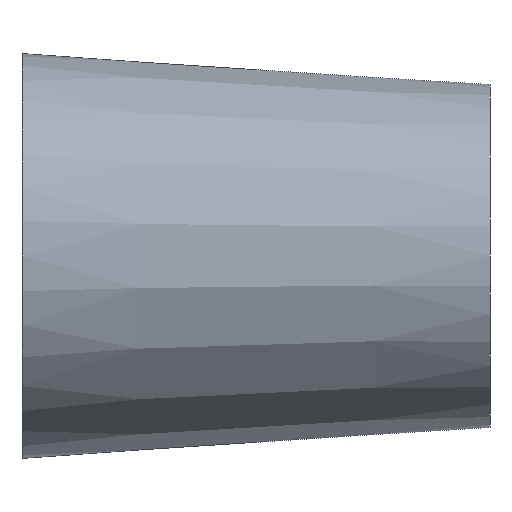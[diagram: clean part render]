
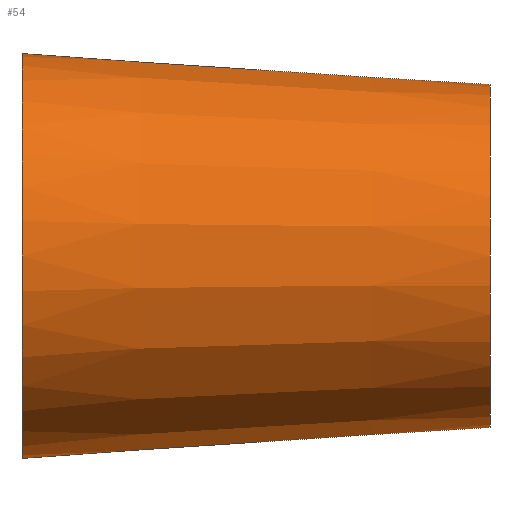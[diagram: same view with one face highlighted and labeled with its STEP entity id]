
A CAD part, left-side view. The second image highlights one B-rep face of the part: STEP entity #54.
In plain terms, the highlighted conical face has half-angle 3.784 degrees and reference radius 42.1 mm.
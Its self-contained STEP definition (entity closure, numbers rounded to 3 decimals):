
#21 = EDGE_CURVE('',#22,#22,#24,.T.);
#22 = VERTEX_POINT('',#23);
#23 = CARTESIAN_POINT('',(42.1,0.,0.));
#24 = SURFACE_CURVE('',#25,(#30,#42),.PCURVE_S1.);
#25 = CIRCLE('',#26,42.1);
#26 = AXIS2_PLACEMENT_3D('',#27,#28,#29);
#27 = CARTESIAN_POINT('',(0.,0.,0.));
#28 = DIRECTION('',(-0.,1.,0.));
#29 = DIRECTION('',(1.,0.,0.));
#30 = PCURVE('',#31,#36);
#31 = PLANE('',#32);
#32 = AXIS2_PLACEMENT_3D('',#33,#34,#35);
#33 = CARTESIAN_POINT('',(0.,0.,0.));
#34 = DIRECTION('',(0.,1.,0.));
#35 = DIRECTION('',(1.,-0.,0.));
#36 = DEFINITIONAL_REPRESENTATION('',(#37),#41);
#37 = CIRCLE('',#38,42.1);
#38 = AXIS2_PLACEMENT_2D('',#39,#40);
#39 = CARTESIAN_POINT('',(0.,0.));
#40 = DIRECTION('',(1.,-0.));
#41 = ( GEOMETRIC_REPRESENTATION_CONTEXT(2) 
PARAMETRIC_REPRESENTATION_CONTEXT() REPRESENTATION_CONTEXT('2D SPACE',''
  ) );
#42 = PCURVE('',#43,#48);
#43 = CONICAL_SURFACE('',#44,42.1,0.066);
#44 = AXIS2_PLACEMENT_3D('',#45,#46,#47);
#45 = CARTESIAN_POINT('',(0.,0.,0.));
#46 = DIRECTION('',(0.,1.,0.));
#47 = DIRECTION('',(1.,0.,0.));
#48 = DEFINITIONAL_REPRESENTATION('',(#49),#53);
#49 = LINE('',#50,#51);
#50 = CARTESIAN_POINT('',(0.,0.));
#51 = VECTOR('',#52,1.);
#52 = DIRECTION('',(1.,0.));
#53 = ( GEOMETRIC_REPRESENTATION_CONTEXT(2) 
PARAMETRIC_REPRESENTATION_CONTEXT() REPRESENTATION_CONTEXT('2D SPACE',''
  ) );
#54 = ADVANCED_FACE('',(#55),#43,.T.);
#55 = FACE_BOUND('',#56,.T.);
#56 = EDGE_LOOP('',(#57,#58,#81,#108));
#57 = ORIENTED_EDGE('',*,*,#21,.T.);
#58 = ORIENTED_EDGE('',*,*,#59,.T.);
#59 = EDGE_CURVE('',#22,#60,#62,.T.);
#60 = VERTEX_POINT('',#61);
#61 = CARTESIAN_POINT('',(49.7,114.91,0.));
#62 = SEAM_CURVE('',#63,(#67,#74),.PCURVE_S1.);
#63 = LINE('',#64,#65);
#64 = CARTESIAN_POINT('',(42.1,0.,0.));
#65 = VECTOR('',#66,1.);
#66 = DIRECTION('',(0.066,0.998,0.));
#67 = PCURVE('',#43,#68);
#68 = DEFINITIONAL_REPRESENTATION('',(#69),#73);
#69 = LINE('',#70,#71);
#70 = CARTESIAN_POINT('',(0.,0.));
#71 = VECTOR('',#72,1.);
#72 = DIRECTION('',(0.,1.));
#73 = ( GEOMETRIC_REPRESENTATION_CONTEXT(2) 
PARAMETRIC_REPRESENTATION_CONTEXT() REPRESENTATION_CONTEXT('2D SPACE',''
  ) );
#74 = PCURVE('',#43,#75);
#75 = DEFINITIONAL_REPRESENTATION('',(#76),#80);
#76 = LINE('',#77,#78);
#77 = CARTESIAN_POINT('',(6.283,0.));
#78 = VECTOR('',#79,1.);
#79 = DIRECTION('',(0.,1.));
#80 = ( GEOMETRIC_REPRESENTATION_CONTEXT(2) 
PARAMETRIC_REPRESENTATION_CONTEXT() REPRESENTATION_CONTEXT('2D SPACE',''
  ) );
#81 = ORIENTED_EDGE('',*,*,#82,.F.);
#82 = EDGE_CURVE('',#60,#60,#83,.T.);
#83 = SURFACE_CURVE('',#84,(#89,#96),.PCURVE_S1.);
#84 = CIRCLE('',#85,49.7);
#85 = AXIS2_PLACEMENT_3D('',#86,#87,#88);
#86 = CARTESIAN_POINT('',(0.,114.91,0.));
#87 = DIRECTION('',(-0.,1.,0.));
#88 = DIRECTION('',(1.,0.,0.));
#89 = PCURVE('',#43,#90);
#90 = DEFINITIONAL_REPRESENTATION('',(#91),#95);
#91 = LINE('',#92,#93);
#92 = CARTESIAN_POINT('',(0.,114.91));
#93 = VECTOR('',#94,1.);
#94 = DIRECTION('',(1.,0.));
#95 = ( GEOMETRIC_REPRESENTATION_CONTEXT(2) 
PARAMETRIC_REPRESENTATION_CONTEXT() REPRESENTATION_CONTEXT('2D SPACE',''
  ) );
#96 = PCURVE('',#97,#102);
#97 = PLANE('',#98);
#98 = AXIS2_PLACEMENT_3D('',#99,#100,#101);
#99 = CARTESIAN_POINT('',(0.,114.91,0.));
#100 = DIRECTION('',(0.,1.,0.));
#101 = DIRECTION('',(1.,0.,0.));
#102 = DEFINITIONAL_REPRESENTATION('',(#103),#107);
#103 = CIRCLE('',#104,49.7);
#104 = AXIS2_PLACEMENT_2D('',#105,#106);
#105 = CARTESIAN_POINT('',(0.,0.));
#106 = DIRECTION('',(1.,0.));
#107 = ( GEOMETRIC_REPRESENTATION_CONTEXT(2) 
PARAMETRIC_REPRESENTATION_CONTEXT() REPRESENTATION_CONTEXT('2D SPACE',''
  ) );
#108 = ORIENTED_EDGE('',*,*,#59,.F.);
